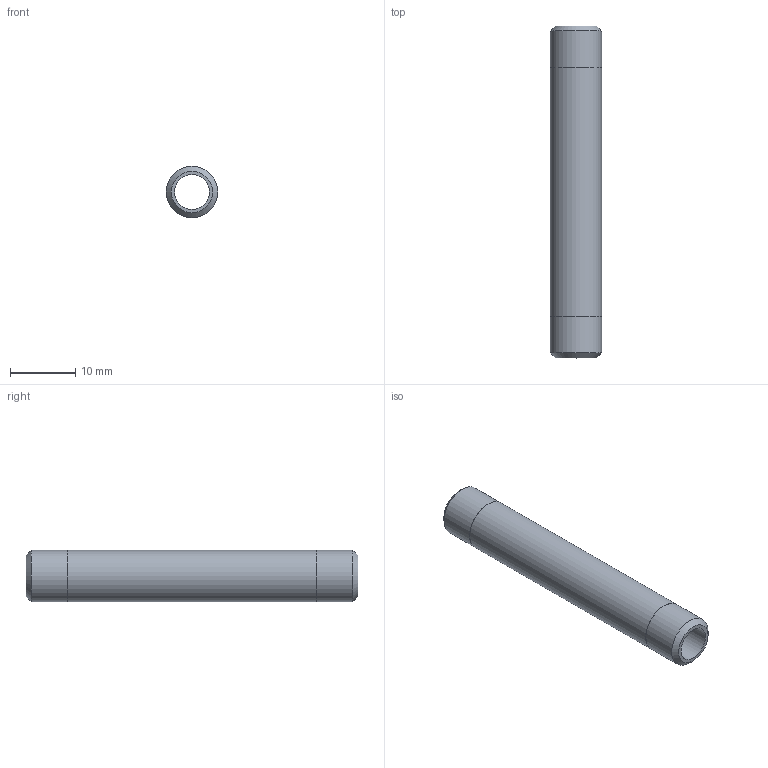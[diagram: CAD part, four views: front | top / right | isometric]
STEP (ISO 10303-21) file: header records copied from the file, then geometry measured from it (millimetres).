
FILE_DESCRIPTION(/* description */ (''),/* implementation_level */ '2;1');
FILE_NAME(/* name */ 'C:/Users/drich/Desktop/BPN16-2 v1.step',/* time_stamp */ '2020-01-03T14:40:55-06:00',/* author */ (''),/* organization */ (''),/* preprocessor_version */ 'ST-DEVELOPER v18',/* originating_system */ 'Autodesk Translation Framework v8.12.0.6',/* authorisation */ '');
FILE_SCHEMA (('AUTOMOTIVE_DESIGN { 1 0 10303 214 3 1 1 }'));
Length unit declared in the file: inch
Products named in the file (1): BPN16-2
Bounding box: 7.92 x 50.8 x 7.92 mm (x, y, z)
Volume: 1359.9 mm3; surface area: 2140.7 mm2
Topology: 1 solids, 1 shells, 10 faces, 24 edges, 18 vertices
Faces by surface type: cylinder 4, plane 4, cone 2
Full cylindrical faces by diameter (mm): 5.309 x1, 7.874 x2, 7.925 x1
Entity records: 360 total; most frequent: DIRECTION 64, CARTESIAN_POINT 53, ORIENTED_EDGE 48, AXIS2_PLACEMENT_3D 29, EDGE_CURVE 24, CIRCLE 18, VERTEX_POINT 18, EDGE_LOOP 14
